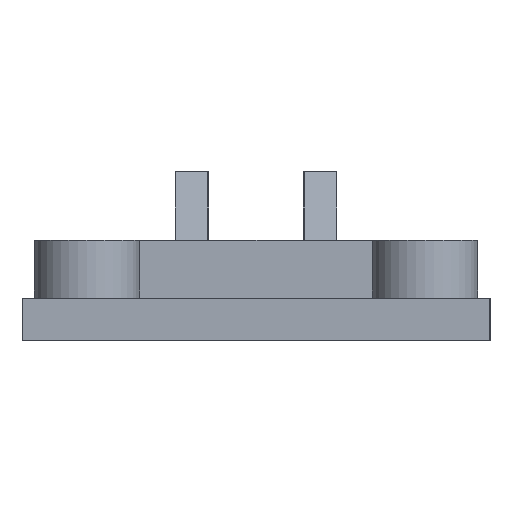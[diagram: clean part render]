
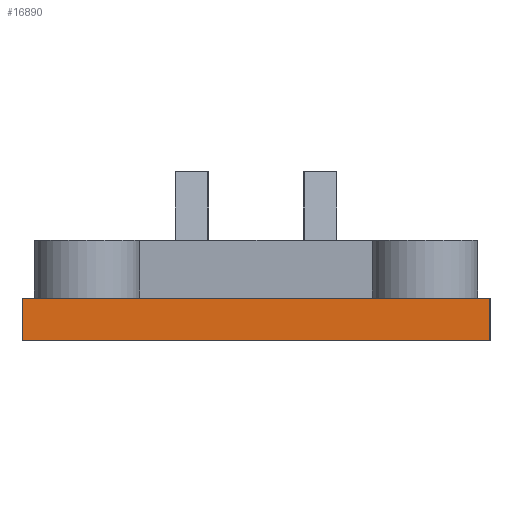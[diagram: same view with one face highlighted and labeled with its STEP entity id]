
A CAD part, left-side view. The second image highlights one B-rep face of the part: STEP entity #16890.
In plain terms, the highlighted planar face has unit normal (-1, 0, 0).
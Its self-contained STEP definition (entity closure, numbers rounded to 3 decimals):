
#3153 = PLANE('',#3154);
#3154 = AXIS2_PLACEMENT_3D('',#3155,#3156,#3157);
#3155 = CARTESIAN_POINT('',(-12.55,-1.475,4.));
#3156 = DIRECTION('',(0.,0.,1.));
#3157 = DIRECTION('',(1.,0.,-0.));
#5590 = PLANE('',#5591);
#5591 = AXIS2_PLACEMENT_3D('',#5592,#5593,#5594);
#5592 = CARTESIAN_POINT('',(-1.05,-0.15,0.));
#5593 = DIRECTION('',(0.,0.,1.));
#5594 = DIRECTION('',(1.,0.,-0.));
#11771 = VERTEX_POINT('',#11772);
#11772 = CARTESIAN_POINT('',(-51.5,43.125,4.));
#11786 = PLANE('',#11787);
#11787 = AXIS2_PLACEMENT_3D('',#11788,#11789,#11790);
#11788 = CARTESIAN_POINT('',(-100.,43.125,-30.));
#11789 = DIRECTION('',(0.,1.,0.));
#11790 = DIRECTION('',(0.,0.,1.));
#11798 = EDGE_CURVE('',#11799,#11771,#11801,.T.);
#11799 = VERTEX_POINT('',#11800);
#11800 = CARTESIAN_POINT('',(-51.5,-1.325,4.));
#11801 = SURFACE_CURVE('',#11802,(#11806,#11813),.PCURVE_S1.);
#11802 = LINE('',#11803,#11804);
#11803 = CARTESIAN_POINT('',(-51.5,-1.325,4.));
#11804 = VECTOR('',#11805,1.);
#11805 = DIRECTION('',(0.,1.,0.));
#11806 = PCURVE('',#3153,#11807);
#11807 = DEFINITIONAL_REPRESENTATION('',(#11808),#11812);
#11808 = LINE('',#11809,#11810);
#11809 = CARTESIAN_POINT('',(-38.95,0.15));
#11810 = VECTOR('',#11811,1.);
#11811 = DIRECTION('',(0.,1.));
#11812 = ( GEOMETRIC_REPRESENTATION_CONTEXT(2) 
PARAMETRIC_REPRESENTATION_CONTEXT() REPRESENTATION_CONTEXT('2D SPACE',''
  ) );
#11813 = PCURVE('',#11814,#11819);
#11814 = PLANE('',#11815);
#11815 = AXIS2_PLACEMENT_3D('',#11816,#11817,#11818);
#11816 = CARTESIAN_POINT('',(-51.5,-1.325,0.));
#11817 = DIRECTION('',(1.,0.,0.));
#11818 = DIRECTION('',(0.,0.,1.));
#11819 = DEFINITIONAL_REPRESENTATION('',(#11820),#11824);
#11820 = LINE('',#11821,#11822);
#11821 = CARTESIAN_POINT('',(4.,0.));
#11822 = VECTOR('',#11823,1.);
#11823 = DIRECTION('',(0.,-1.));
#11824 = ( GEOMETRIC_REPRESENTATION_CONTEXT(2) 
PARAMETRIC_REPRESENTATION_CONTEXT() REPRESENTATION_CONTEXT('2D SPACE',''
  ) );
#11842 = PLANE('',#11843);
#11843 = AXIS2_PLACEMENT_3D('',#11844,#11845,#11846);
#11844 = CARTESIAN_POINT('',(-100.,-1.325,-30.));
#11845 = DIRECTION('',(0.,1.,0.));
#11846 = DIRECTION('',(0.,0.,1.));
#12998 = VERTEX_POINT('',#12999);
#12999 = CARTESIAN_POINT('',(-51.5,43.125,0.));
#13022 = EDGE_CURVE('',#13023,#12998,#13025,.T.);
#13023 = VERTEX_POINT('',#13024);
#13024 = CARTESIAN_POINT('',(-51.5,-1.325,0.));
#13025 = SURFACE_CURVE('',#13026,(#13030,#13037),.PCURVE_S1.);
#13026 = LINE('',#13027,#13028);
#13027 = CARTESIAN_POINT('',(-51.5,-1.325,0.));
#13028 = VECTOR('',#13029,1.);
#13029 = DIRECTION('',(0.,1.,0.));
#13030 = PCURVE('',#5590,#13031);
#13031 = DEFINITIONAL_REPRESENTATION('',(#13032),#13036);
#13032 = LINE('',#13033,#13034);
#13033 = CARTESIAN_POINT('',(-50.45,-1.175));
#13034 = VECTOR('',#13035,1.);
#13035 = DIRECTION('',(0.,1.));
#13036 = ( GEOMETRIC_REPRESENTATION_CONTEXT(2) 
PARAMETRIC_REPRESENTATION_CONTEXT() REPRESENTATION_CONTEXT('2D SPACE',''
  ) );
#13037 = PCURVE('',#11814,#13038);
#13038 = DEFINITIONAL_REPRESENTATION('',(#13039),#13043);
#13039 = LINE('',#13040,#13041);
#13040 = CARTESIAN_POINT('',(0.,0.));
#13041 = VECTOR('',#13042,1.);
#13042 = DIRECTION('',(0.,-1.));
#13043 = ( GEOMETRIC_REPRESENTATION_CONTEXT(2) 
PARAMETRIC_REPRESENTATION_CONTEXT() REPRESENTATION_CONTEXT('2D SPACE',''
  ) );
#15160 = EDGE_CURVE('',#12998,#11771,#15161,.T.);
#15161 = SURFACE_CURVE('',#15162,(#15166,#15173),.PCURVE_S1.);
#15162 = LINE('',#15163,#15164);
#15163 = CARTESIAN_POINT('',(-51.5,43.125,0.));
#15164 = VECTOR('',#15165,1.);
#15165 = DIRECTION('',(0.,0.,1.));
#15166 = PCURVE('',#11786,#15167);
#15167 = DEFINITIONAL_REPRESENTATION('',(#15168),#15172);
#15168 = LINE('',#15169,#15170);
#15169 = CARTESIAN_POINT('',(30.,48.5));
#15170 = VECTOR('',#15171,1.);
#15171 = DIRECTION('',(1.,0.));
#15172 = ( GEOMETRIC_REPRESENTATION_CONTEXT(2) 
PARAMETRIC_REPRESENTATION_CONTEXT() REPRESENTATION_CONTEXT('2D SPACE',''
  ) );
#15173 = PCURVE('',#11814,#15174);
#15174 = DEFINITIONAL_REPRESENTATION('',(#15175),#15179);
#15175 = LINE('',#15176,#15177);
#15176 = CARTESIAN_POINT('',(0.,-44.45));
#15177 = VECTOR('',#15178,1.);
#15178 = DIRECTION('',(1.,0.));
#15179 = ( GEOMETRIC_REPRESENTATION_CONTEXT(2) 
PARAMETRIC_REPRESENTATION_CONTEXT() REPRESENTATION_CONTEXT('2D SPACE',''
  ) );
#15212 = EDGE_CURVE('',#13023,#11799,#15213,.T.);
#15213 = SURFACE_CURVE('',#15214,(#15218,#15225),.PCURVE_S1.);
#15214 = LINE('',#15215,#15216);
#15215 = CARTESIAN_POINT('',(-51.5,-1.325,0.));
#15216 = VECTOR('',#15217,1.);
#15217 = DIRECTION('',(0.,0.,1.));
#15218 = PCURVE('',#11842,#15219);
#15219 = DEFINITIONAL_REPRESENTATION('',(#15220),#15224);
#15220 = LINE('',#15221,#15222);
#15221 = CARTESIAN_POINT('',(30.,48.5));
#15222 = VECTOR('',#15223,1.);
#15223 = DIRECTION('',(1.,0.));
#15224 = ( GEOMETRIC_REPRESENTATION_CONTEXT(2) 
PARAMETRIC_REPRESENTATION_CONTEXT() REPRESENTATION_CONTEXT('2D SPACE',''
  ) );
#15225 = PCURVE('',#11814,#15226);
#15226 = DEFINITIONAL_REPRESENTATION('',(#15227),#15231);
#15227 = LINE('',#15228,#15229);
#15228 = CARTESIAN_POINT('',(0.,0.));
#15229 = VECTOR('',#15230,1.);
#15230 = DIRECTION('',(1.,0.));
#15231 = ( GEOMETRIC_REPRESENTATION_CONTEXT(2) 
PARAMETRIC_REPRESENTATION_CONTEXT() REPRESENTATION_CONTEXT('2D SPACE',''
  ) );
#16890 = ADVANCED_FACE('',(#16891),#11814,.F.);
#16891 = FACE_BOUND('',#16892,.F.);
#16892 = EDGE_LOOP('',(#16893,#16894,#16895,#16896));
#16893 = ORIENTED_EDGE('',*,*,#15212,.F.);
#16894 = ORIENTED_EDGE('',*,*,#13022,.T.);
#16895 = ORIENTED_EDGE('',*,*,#15160,.T.);
#16896 = ORIENTED_EDGE('',*,*,#11798,.F.);
